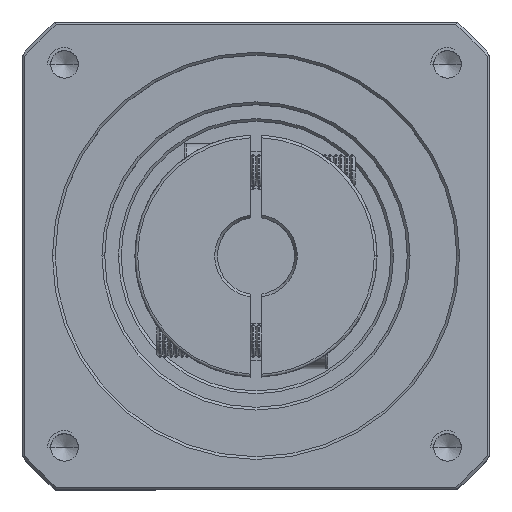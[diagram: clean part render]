
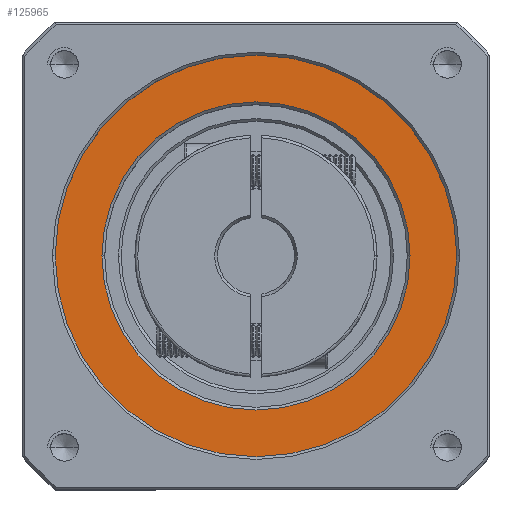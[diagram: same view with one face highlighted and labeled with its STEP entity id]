
A CAD part, top view. The second image highlights one B-rep face of the part: STEP entity #125965.
In plain terms, the highlighted planar face has unit normal (0, 0, 1).
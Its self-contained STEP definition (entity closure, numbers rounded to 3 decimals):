
#11266 = DIRECTION ( 'NONE',  ( 1., 0., 0. ) ) ;
#18198 = ORIENTED_EDGE ( 'NONE', *, *, #27854, .T. ) ;
#18738 = DIRECTION ( 'NONE',  ( 0., 0., -1. ) ) ;
#24953 = CARTESIAN_POINT ( 'NONE',  ( -66.124, 38.632, -19.036 ) ) ;
#27854 = EDGE_CURVE ( 'NONE', #63852, #119454, #43677, .T. ) ;
#32878 = DIRECTION ( 'NONE',  ( 1., 0., 0. ) ) ;
#32883 = CIRCLE ( 'NONE', #60720, 28. ) ;
#37282 = AXIS2_PLACEMENT_3D ( 'NONE', #73025, #71715, #11266 ) ;
#43677 = CIRCLE ( 'NONE', #123975, 28. ) ;
#44377 = FACE_OUTER_BOUND ( 'NONE', #130746, .T. ) ;
#44474 = CIRCLE ( 'NONE', #60130, 36.5 ) ;
#46581 = ORIENTED_EDGE ( 'NONE', *, *, #112520, .T. ) ;
#58256 = DIRECTION ( 'NONE',  ( 1., 0., 0. ) ) ;
#58986 = VERTEX_POINT ( 'NONE', #100363 ) ;
#60130 = AXIS2_PLACEMENT_3D ( 'NONE', #61973, #81870, #32878 ) ;
#60720 = AXIS2_PLACEMENT_3D ( 'NONE', #110221, #18738, #89423 ) ;
#61973 = CARTESIAN_POINT ( 'NONE',  ( -38.124, 38.632, -19.036 ) ) ;
#63852 = VERTEX_POINT ( 'NONE', #92603 ) ;
#68050 = FACE_BOUND ( 'NONE', #77147, .T. ) ;
#68361 = DIRECTION ( 'NONE',  ( 0., 0., -1. ) ) ;
#71715 = DIRECTION ( 'NONE',  ( 0., 0., 1. ) ) ;
#73025 = CARTESIAN_POINT ( 'NONE',  ( -38.124, 38.632, -19.036 ) ) ;
#77147 = EDGE_LOOP ( 'NONE', ( #18198, #78897 ) ) ;
#77955 = CARTESIAN_POINT ( 'NONE',  ( -1.624, 38.632, -19.036 ) ) ;
#78125 = DIRECTION ( 'NONE',  ( 1., 0., 0. ) ) ;
#78897 = ORIENTED_EDGE ( 'NONE', *, *, #87466, .T. ) ;
#81870 = DIRECTION ( 'NONE',  ( 0., 0., 1. ) ) ;
#82288 = CIRCLE ( 'NONE', #96337, 36.5 ) ;
#83215 = PLANE ( 'NONE',  #37282 ) ;
#84885 = ORIENTED_EDGE ( 'NONE', *, *, #89687, .T. ) ;
#87466 = EDGE_CURVE ( 'NONE', #119454, #63852, #32883, .T. ) ;
#89216 = CARTESIAN_POINT ( 'NONE',  ( -38.124, 38.632, -19.036 ) ) ;
#89423 = DIRECTION ( 'NONE',  ( 1., 0., 0. ) ) ;
#89687 = EDGE_CURVE ( 'NONE', #98604, #58986, #44474, .T. ) ;
#92603 = CARTESIAN_POINT ( 'NONE',  ( -10.124, 38.632, -19.036 ) ) ;
#96337 = AXIS2_PLACEMENT_3D ( 'NONE', #89216, #98963, #58256 ) ;
#98604 = VERTEX_POINT ( 'NONE', #77955 ) ;
#98963 = DIRECTION ( 'NONE',  ( 0., 0., 1. ) ) ;
#100363 = CARTESIAN_POINT ( 'NONE',  ( -74.624, 38.632, -19.036 ) ) ;
#110221 = CARTESIAN_POINT ( 'NONE',  ( -38.124, 38.632, -19.036 ) ) ;
#112520 = EDGE_CURVE ( 'NONE', #58986, #98604, #82288, .T. ) ;
#119454 = VERTEX_POINT ( 'NONE', #24953 ) ;
#123975 = AXIS2_PLACEMENT_3D ( 'NONE', #129002, #68361, #78125 ) ;
#125965 = ADVANCED_FACE ( 'NONE', ( #44377, #68050 ), #83215, .T. ) ;
#129002 = CARTESIAN_POINT ( 'NONE',  ( -38.124, 38.632, -19.036 ) ) ;
#130746 = EDGE_LOOP ( 'NONE', ( #84885, #46581 ) ) ;
